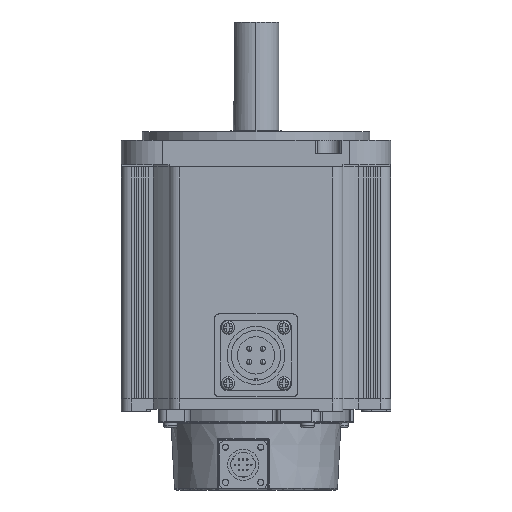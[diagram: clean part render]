
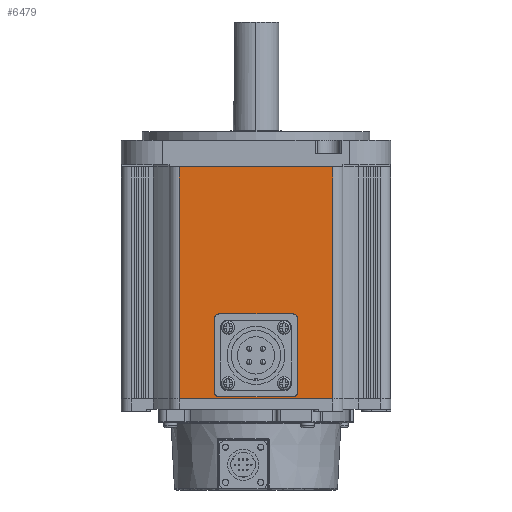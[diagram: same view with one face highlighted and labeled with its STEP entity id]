
A CAD part, front view. The second image highlights one B-rep face of the part: STEP entity #6479.
In plain terms, the highlighted planar face has unit normal (0, -1, 0) as drawn and (0, 1, 0) by its records, which use the part's own axes.
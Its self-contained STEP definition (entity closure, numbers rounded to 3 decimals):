
#349 = DIRECTION ( 'NONE',  ( 0., 1., 0. ) ) ;
#395 = CARTESIAN_POINT ( 'NONE',  ( -37., 65., 0. ) ) ;
#1394 = ORIENTED_EDGE ( 'NONE', *, *, #10839, .T. ) ;
#2043 = VECTOR ( 'NONE', #19258, 1000. ) ;
#2829 = VERTEX_POINT ( 'NONE', #26360 ) ;
#3105 = DIRECTION ( 'NONE',  ( -1., 0., 0. ) ) ;
#3213 = VERTEX_POINT ( 'NONE', #5016 ) ;
#3452 = ORIENTED_EDGE ( 'NONE', *, *, #8055, .F. ) ;
#3888 = EDGE_CURVE ( 'NONE', #12883, #4676, #10373, .T. ) ;
#4122 = DIRECTION ( 'NONE',  ( 1., 0., 0. ) ) ;
#4676 = VERTEX_POINT ( 'NONE', #28048 ) ;
#5016 = CARTESIAN_POINT ( 'NONE',  ( -37., 65., 0. ) ) ;
#5103 = DIRECTION ( 'NONE',  ( -1., 0., 0. ) ) ;
#5115 = VECTOR ( 'NONE', #27379, 1000. ) ;
#6235 = CARTESIAN_POINT ( 'NONE',  ( -5., 65., 21. ) ) ;
#6479 = ADVANCED_FACE ( 'NONE', ( #21367, #17277 ), #18366, .F. ) ;
#7404 = CARTESIAN_POINT ( 'NONE',  ( -37., 65., 112. ) ) ;
#8009 = ORIENTED_EDGE ( 'NONE', *, *, #3888, .F. ) ;
#8055 = EDGE_CURVE ( 'NONE', #23538, #2829, #20528, .T. ) ;
#8299 = ORIENTED_EDGE ( 'NONE', *, *, #25019, .T. ) ;
#8371 = LINE ( 'NONE', #7404, #2043 ) ;
#8609 = DIRECTION ( 'NONE',  ( 0., -1., 0. ) ) ;
#8927 = CARTESIAN_POINT ( 'NONE',  ( -37., 65., 112. ) ) ;
#9548 = DIRECTION ( 'NONE',  ( 0., 1., 0. ) ) ;
#10006 = VECTOR ( 'NONE', #3105, 1000. ) ;
#10373 = LINE ( 'NONE', #17653, #10006 ) ;
#10839 = EDGE_CURVE ( 'NONE', #12883, #13486, #12202, .T. ) ;
#11177 = CARTESIAN_POINT ( 'NONE',  ( 37., 65., 112. ) ) ;
#12202 = LINE ( 'NONE', #12854, #5115 ) ;
#12270 = EDGE_CURVE ( 'NONE', #2829, #23538, #20220, .T. ) ;
#12854 = CARTESIAN_POINT ( 'NONE',  ( 37., 65., 112. ) ) ;
#12883 = VERTEX_POINT ( 'NONE', #11177 ) ;
#13486 = VERTEX_POINT ( 'NONE', #14506 ) ;
#14506 = CARTESIAN_POINT ( 'NONE',  ( 37., 65., 0. ) ) ;
#14599 = CARTESIAN_POINT ( 'NONE',  ( 0., 65., 21. ) ) ;
#14815 = AXIS2_PLACEMENT_3D ( 'NONE', #8927, #8609, #4122 ) ;
#16391 = LINE ( 'NONE', #395, #30550 ) ;
#16903 = ORIENTED_EDGE ( 'NONE', *, *, #30354, .F. ) ;
#17277 = FACE_OUTER_BOUND ( 'NONE', #18897, .T. ) ;
#17653 = CARTESIAN_POINT ( 'NONE',  ( -37., 65., 112. ) ) ;
#18366 = PLANE ( 'NONE',  #14815 ) ;
#18897 = EDGE_LOOP ( 'NONE', ( #8299, #16903, #8009, #1394 ) ) ;
#19258 = DIRECTION ( 'NONE',  ( 0., 0., -1. ) ) ;
#20220 = CIRCLE ( 'NONE', #21497, 5. ) ;
#20528 = CIRCLE ( 'NONE', #23475, 5. ) ;
#21367 = FACE_BOUND ( 'NONE', #25540, .T. ) ;
#21497 = AXIS2_PLACEMENT_3D ( 'NONE', #28349, #9548, #28562 ) ;
#21845 = ORIENTED_EDGE ( 'NONE', *, *, #12270, .F. ) ;
#23475 = AXIS2_PLACEMENT_3D ( 'NONE', #14599, #349, #26775 ) ;
#23538 = VERTEX_POINT ( 'NONE', #6235 ) ;
#25019 = EDGE_CURVE ( 'NONE', #13486, #3213, #16391, .T. ) ;
#25540 = EDGE_LOOP ( 'NONE', ( #3452, #21845 ) ) ;
#26360 = CARTESIAN_POINT ( 'NONE',  ( 5., 65., 21. ) ) ;
#26775 = DIRECTION ( 'NONE',  ( -1., 0., 0. ) ) ;
#27379 = DIRECTION ( 'NONE',  ( 0., 0., -1. ) ) ;
#28048 = CARTESIAN_POINT ( 'NONE',  ( -37., 65., 112. ) ) ;
#28349 = CARTESIAN_POINT ( 'NONE',  ( 0., 65., 21. ) ) ;
#28562 = DIRECTION ( 'NONE',  ( -1., 0., 0. ) ) ;
#30354 = EDGE_CURVE ( 'NONE', #4676, #3213, #8371, .T. ) ;
#30550 = VECTOR ( 'NONE', #5103, 1000. ) ;
